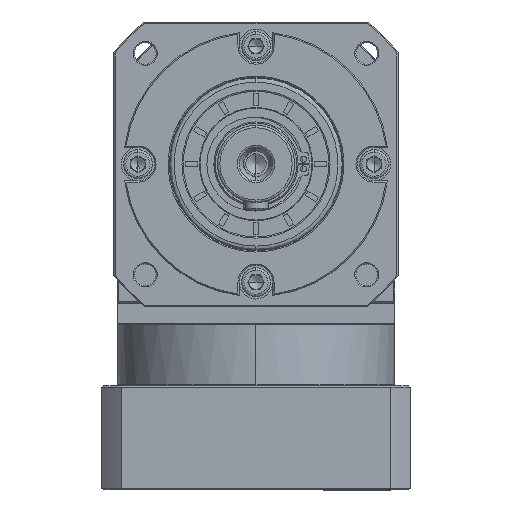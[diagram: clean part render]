
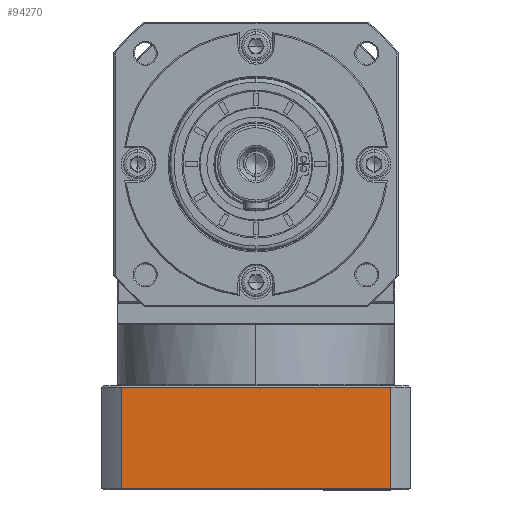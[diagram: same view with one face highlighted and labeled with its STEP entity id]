
A CAD part, top view. The second image highlights one B-rep face of the part: STEP entity #94270.
In plain terms, the highlighted planar face has unit normal (0, 0, 1).
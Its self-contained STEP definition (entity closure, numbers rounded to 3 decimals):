
#1116 = LINE ( 'NONE', #88623, #11365 ) ;
#3323 = CARTESIAN_POINT ( 'NONE',  ( -269.443, -194.555, 67.124 ) ) ;
#3974 = EDGE_CURVE ( 'NONE', #121936, #154343, #1116, .T. ) ;
#6958 = EDGE_CURVE ( 'NONE', #154343, #65489, #32971, .T. ) ;
#11365 = VECTOR ( 'NONE', #23937, 1000. ) ;
#14570 = DIRECTION ( 'NONE',  ( 0., -1., 0. ) ) ;
#22306 = VECTOR ( 'NONE', #50832, 1000. ) ;
#23937 = DIRECTION ( 'NONE',  ( 0., 1., 0. ) ) ;
#27148 = DIRECTION ( 'NONE',  ( -1., 0., 0. ) ) ;
#28602 = EDGE_CURVE ( 'NONE', #65489, #36119, #98689, .T. ) ;
#30951 = DIRECTION ( 'NONE',  ( 0., 0., -1. ) ) ;
#32971 = LINE ( 'NONE', #153453, #22306 ) ;
#36119 = VERTEX_POINT ( 'NONE', #111490 ) ;
#43269 = ORIENTED_EDGE ( 'NONE', *, *, #28602, .F. ) ;
#44399 = ORIENTED_EDGE ( 'NONE', *, *, #3974, .F. ) ;
#50832 = DIRECTION ( 'NONE',  ( 1., 0., 0. ) ) ;
#53536 = CARTESIAN_POINT ( 'NONE',  ( -157.568, 100.359, 67.124 ) ) ;
#61144 = EDGE_LOOP ( 'NONE', ( #43269, #83715, #44399, #142370 ) ) ;
#65489 = VERTEX_POINT ( 'NONE', #78301 ) ;
#69361 = DIRECTION ( 'NONE',  ( -1., 0., 0. ) ) ;
#70476 = CARTESIAN_POINT ( 'NONE',  ( -277.505, -195.055, 67.124 ) ) ;
#78301 = CARTESIAN_POINT ( 'NONE',  ( -157.568, -152.555, 67.124 ) ) ;
#79707 = PLANE ( 'NONE',  #107665 ) ;
#83715 = ORIENTED_EDGE ( 'NONE', *, *, #6958, .F. ) ;
#88458 = VECTOR ( 'NONE', #14570, 1000. ) ;
#88623 = CARTESIAN_POINT ( 'NONE',  ( -269.443, -195.055, 67.124 ) ) ;
#93677 = EDGE_CURVE ( 'NONE', #36119, #121936, #109211, .T. ) ;
#94270 = ADVANCED_FACE ( 'NONE', ( #153996 ), #79707, .F. ) ;
#98689 = LINE ( 'NONE', #53536, #88458 ) ;
#105090 = VECTOR ( 'NONE', #27148, 1000. ) ;
#107665 = AXIS2_PLACEMENT_3D ( 'NONE', #70476, #30951, #69361 ) ;
#109211 = LINE ( 'NONE', #122253, #105090 ) ;
#111490 = CARTESIAN_POINT ( 'NONE',  ( -157.568, -194.555, 67.124 ) ) ;
#121936 = VERTEX_POINT ( 'NONE', #3323 ) ;
#122253 = CARTESIAN_POINT ( 'NONE',  ( -277.505, -194.555, 67.124 ) ) ;
#142370 = ORIENTED_EDGE ( 'NONE', *, *, #93677, .F. ) ;
#151782 = CARTESIAN_POINT ( 'NONE',  ( -269.443, -152.555, 67.124 ) ) ;
#153453 = CARTESIAN_POINT ( 'NONE',  ( -277.505, -152.555, 67.124 ) ) ;
#153996 = FACE_OUTER_BOUND ( 'NONE', #61144, .T. ) ;
#154343 = VERTEX_POINT ( 'NONE', #151782 ) ;
